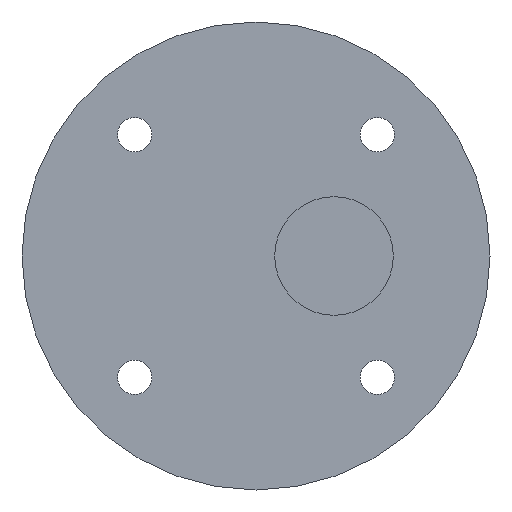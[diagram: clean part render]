
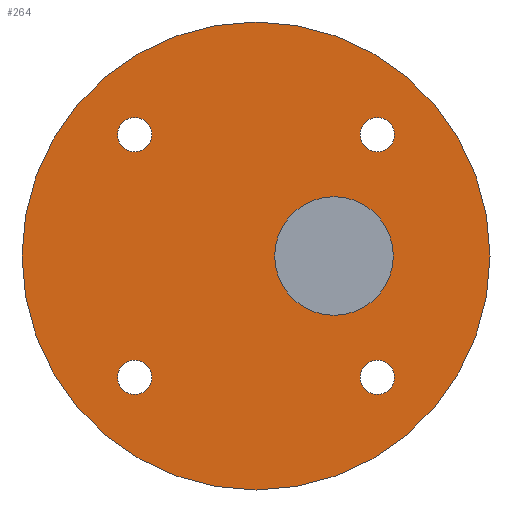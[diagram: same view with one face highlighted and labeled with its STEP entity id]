
A CAD part, left-side view. The second image highlights one B-rep face of the part: STEP entity #264.
In plain terms, the highlighted planar face has unit normal (-1, 0, 0).
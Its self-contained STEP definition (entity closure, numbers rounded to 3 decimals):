
#31 = CYLINDRICAL_SURFACE('',#32,150.);
#32 = AXIS2_PLACEMENT_3D('',#33,#34,#35);
#33 = CARTESIAN_POINT('',(978.,100.,1100.));
#34 = DIRECTION('',(1.,0.,0.));
#35 = DIRECTION('',(-0.,0.,1.));
#56 = VERTEX_POINT('',#57);
#57 = CARTESIAN_POINT('',(978.,100.,1250.));
#78 = EDGE_CURVE('',#56,#56,#79,.T.);
#79 = SURFACE_CURVE('',#80,(#85,#92),.PCURVE_S1.);
#80 = CIRCLE('',#81,150.);
#81 = AXIS2_PLACEMENT_3D('',#82,#83,#84);
#82 = CARTESIAN_POINT('',(978.,100.,1100.));
#83 = DIRECTION('',(1.,0.,0.));
#84 = DIRECTION('',(-0.,0.,1.));
#85 = PCURVE('',#31,#86);
#86 = DEFINITIONAL_REPRESENTATION('',(#87),#91);
#87 = LINE('',#88,#89);
#88 = CARTESIAN_POINT('',(0.,0.));
#89 = VECTOR('',#90,1.);
#90 = DIRECTION('',(1.,0.));
#91 = ( GEOMETRIC_REPRESENTATION_CONTEXT(2) 
PARAMETRIC_REPRESENTATION_CONTEXT() REPRESENTATION_CONTEXT('2D SPACE',''
  ) );
#92 = PCURVE('',#93,#98);
#93 = PLANE('',#94);
#94 = AXIS2_PLACEMENT_3D('',#95,#96,#97);
#95 = CARTESIAN_POINT('',(978.,100.,1100.));
#96 = DIRECTION('',(1.,0.,0.));
#97 = DIRECTION('',(-0.,0.,1.));
#98 = DEFINITIONAL_REPRESENTATION('',(#99),#103);
#99 = CIRCLE('',#100,150.);
#100 = AXIS2_PLACEMENT_2D('',#101,#102);
#101 = CARTESIAN_POINT('',(0.,0.));
#102 = DIRECTION('',(1.,0.));
#103 = ( GEOMETRIC_REPRESENTATION_CONTEXT(2) 
PARAMETRIC_REPRESENTATION_CONTEXT() REPRESENTATION_CONTEXT('2D SPACE',''
  ) );
#129 = CYLINDRICAL_SURFACE('',#130,11.);
#130 = AXIS2_PLACEMENT_3D('',#131,#132,#133);
#131 = CARTESIAN_POINT('',(936.,177.782,1022.218));
#132 = DIRECTION('',(1.,0.,0.));
#133 = DIRECTION('',(-0.,0.,1.));
#160 = CYLINDRICAL_SURFACE('',#161,11.);
#161 = AXIS2_PLACEMENT_3D('',#162,#163,#164);
#162 = CARTESIAN_POINT('',(936.,177.782,1177.782));
#163 = DIRECTION('',(1.,0.,0.));
#164 = DIRECTION('',(-0.,0.,1.));
#191 = CYLINDRICAL_SURFACE('',#192,11.);
#192 = AXIS2_PLACEMENT_3D('',#193,#194,#195);
#193 = CARTESIAN_POINT('',(936.,22.218,1022.218));
#194 = DIRECTION('',(1.,0.,0.));
#195 = DIRECTION('',(-0.,0.,1.));
#253 = CYLINDRICAL_SURFACE('',#254,11.);
#254 = AXIS2_PLACEMENT_3D('',#255,#256,#257);
#255 = CARTESIAN_POINT('',(936.,22.218,1177.782));
#256 = DIRECTION('',(1.,0.,0.));
#257 = DIRECTION('',(-0.,0.,1.));
#264 = ADVANCED_FACE('',(#265,#268,#294,#320,#346,#377),#93,.F.);
#265 = FACE_BOUND('',#266,.F.);
#266 = EDGE_LOOP('',(#267));
#267 = ORIENTED_EDGE('',*,*,#78,.T.);
#268 = FACE_BOUND('',#269,.F.);
#269 = EDGE_LOOP('',(#270));
#270 = ORIENTED_EDGE('',*,*,#271,.F.);
#271 = EDGE_CURVE('',#272,#272,#274,.T.);
#272 = VERTEX_POINT('',#273);
#273 = CARTESIAN_POINT('',(978.,177.782,1033.218));
#274 = SURFACE_CURVE('',#275,(#280,#287),.PCURVE_S1.);
#275 = CIRCLE('',#276,11.);
#276 = AXIS2_PLACEMENT_3D('',#277,#278,#279);
#277 = CARTESIAN_POINT('',(978.,177.782,1022.218));
#278 = DIRECTION('',(1.,0.,0.));
#279 = DIRECTION('',(-0.,0.,1.));
#280 = PCURVE('',#93,#281);
#281 = DEFINITIONAL_REPRESENTATION('',(#282),#286);
#282 = CIRCLE('',#283,11.);
#283 = AXIS2_PLACEMENT_2D('',#284,#285);
#284 = CARTESIAN_POINT('',(-77.782,-77.782));
#285 = DIRECTION('',(1.,0.));
#286 = ( GEOMETRIC_REPRESENTATION_CONTEXT(2) 
PARAMETRIC_REPRESENTATION_CONTEXT() REPRESENTATION_CONTEXT('2D SPACE',''
  ) );
#287 = PCURVE('',#129,#288);
#288 = DEFINITIONAL_REPRESENTATION('',(#289),#293);
#289 = LINE('',#290,#291);
#290 = CARTESIAN_POINT('',(0.,42.));
#291 = VECTOR('',#292,1.);
#292 = DIRECTION('',(1.,0.));
#293 = ( GEOMETRIC_REPRESENTATION_CONTEXT(2) 
PARAMETRIC_REPRESENTATION_CONTEXT() REPRESENTATION_CONTEXT('2D SPACE',''
  ) );
#294 = FACE_BOUND('',#295,.F.);
#295 = EDGE_LOOP('',(#296));
#296 = ORIENTED_EDGE('',*,*,#297,.F.);
#297 = EDGE_CURVE('',#298,#298,#300,.T.);
#298 = VERTEX_POINT('',#299);
#299 = CARTESIAN_POINT('',(978.,177.782,1188.782));
#300 = SURFACE_CURVE('',#301,(#306,#313),.PCURVE_S1.);
#301 = CIRCLE('',#302,11.);
#302 = AXIS2_PLACEMENT_3D('',#303,#304,#305);
#303 = CARTESIAN_POINT('',(978.,177.782,1177.782));
#304 = DIRECTION('',(1.,0.,0.));
#305 = DIRECTION('',(-0.,0.,1.));
#306 = PCURVE('',#93,#307);
#307 = DEFINITIONAL_REPRESENTATION('',(#308),#312);
#308 = CIRCLE('',#309,11.);
#309 = AXIS2_PLACEMENT_2D('',#310,#311);
#310 = CARTESIAN_POINT('',(77.782,-77.782));
#311 = DIRECTION('',(1.,0.));
#312 = ( GEOMETRIC_REPRESENTATION_CONTEXT(2) 
PARAMETRIC_REPRESENTATION_CONTEXT() REPRESENTATION_CONTEXT('2D SPACE',''
  ) );
#313 = PCURVE('',#160,#314);
#314 = DEFINITIONAL_REPRESENTATION('',(#315),#319);
#315 = LINE('',#316,#317);
#316 = CARTESIAN_POINT('',(0.,42.));
#317 = VECTOR('',#318,1.);
#318 = DIRECTION('',(1.,0.));
#319 = ( GEOMETRIC_REPRESENTATION_CONTEXT(2) 
PARAMETRIC_REPRESENTATION_CONTEXT() REPRESENTATION_CONTEXT('2D SPACE',''
  ) );
#320 = FACE_BOUND('',#321,.F.);
#321 = EDGE_LOOP('',(#322));
#322 = ORIENTED_EDGE('',*,*,#323,.F.);
#323 = EDGE_CURVE('',#324,#324,#326,.T.);
#324 = VERTEX_POINT('',#325);
#325 = CARTESIAN_POINT('',(978.,22.218,1033.218));
#326 = SURFACE_CURVE('',#327,(#332,#339),.PCURVE_S1.);
#327 = CIRCLE('',#328,11.);
#328 = AXIS2_PLACEMENT_3D('',#329,#330,#331);
#329 = CARTESIAN_POINT('',(978.,22.218,1022.218));
#330 = DIRECTION('',(1.,0.,0.));
#331 = DIRECTION('',(-0.,0.,1.));
#332 = PCURVE('',#93,#333);
#333 = DEFINITIONAL_REPRESENTATION('',(#334),#338);
#334 = CIRCLE('',#335,11.);
#335 = AXIS2_PLACEMENT_2D('',#336,#337);
#336 = CARTESIAN_POINT('',(-77.782,77.782));
#337 = DIRECTION('',(1.,0.));
#338 = ( GEOMETRIC_REPRESENTATION_CONTEXT(2) 
PARAMETRIC_REPRESENTATION_CONTEXT() REPRESENTATION_CONTEXT('2D SPACE',''
  ) );
#339 = PCURVE('',#191,#340);
#340 = DEFINITIONAL_REPRESENTATION('',(#341),#345);
#341 = LINE('',#342,#343);
#342 = CARTESIAN_POINT('',(0.,42.));
#343 = VECTOR('',#344,1.);
#344 = DIRECTION('',(1.,0.));
#345 = ( GEOMETRIC_REPRESENTATION_CONTEXT(2) 
PARAMETRIC_REPRESENTATION_CONTEXT() REPRESENTATION_CONTEXT('2D SPACE',''
  ) );
#346 = FACE_BOUND('',#347,.F.);
#347 = EDGE_LOOP('',(#348));
#348 = ORIENTED_EDGE('',*,*,#349,.F.);
#349 = EDGE_CURVE('',#350,#350,#352,.T.);
#350 = VERTEX_POINT('',#351);
#351 = CARTESIAN_POINT('',(978.,50.,1138.));
#352 = SURFACE_CURVE('',#353,(#358,#365),.PCURVE_S1.);
#353 = CIRCLE('',#354,38.);
#354 = AXIS2_PLACEMENT_3D('',#355,#356,#357);
#355 = CARTESIAN_POINT('',(978.,50.,1100.));
#356 = DIRECTION('',(1.,0.,0.));
#357 = DIRECTION('',(-0.,0.,1.));
#358 = PCURVE('',#93,#359);
#359 = DEFINITIONAL_REPRESENTATION('',(#360),#364);
#360 = CIRCLE('',#361,38.);
#361 = AXIS2_PLACEMENT_2D('',#362,#363);
#362 = CARTESIAN_POINT('',(0.,50.));
#363 = DIRECTION('',(1.,0.));
#364 = ( GEOMETRIC_REPRESENTATION_CONTEXT(2) 
PARAMETRIC_REPRESENTATION_CONTEXT() REPRESENTATION_CONTEXT('2D SPACE',''
  ) );
#365 = PCURVE('',#366,#371);
#366 = CYLINDRICAL_SURFACE('',#367,38.);
#367 = AXIS2_PLACEMENT_3D('',#368,#369,#370);
#368 = CARTESIAN_POINT('',(977.,50.,1100.));
#369 = DIRECTION('',(1.,0.,0.));
#370 = DIRECTION('',(-0.,0.,1.));
#371 = DEFINITIONAL_REPRESENTATION('',(#372),#376);
#372 = LINE('',#373,#374);
#373 = CARTESIAN_POINT('',(0.,1.));
#374 = VECTOR('',#375,1.);
#375 = DIRECTION('',(1.,0.));
#376 = ( GEOMETRIC_REPRESENTATION_CONTEXT(2) 
PARAMETRIC_REPRESENTATION_CONTEXT() REPRESENTATION_CONTEXT('2D SPACE',''
  ) );
#377 = FACE_BOUND('',#378,.F.);
#378 = EDGE_LOOP('',(#379));
#379 = ORIENTED_EDGE('',*,*,#380,.F.);
#380 = EDGE_CURVE('',#381,#381,#383,.T.);
#381 = VERTEX_POINT('',#382);
#382 = CARTESIAN_POINT('',(978.,22.218,1188.782));
#383 = SURFACE_CURVE('',#384,(#389,#396),.PCURVE_S1.);
#384 = CIRCLE('',#385,11.);
#385 = AXIS2_PLACEMENT_3D('',#386,#387,#388);
#386 = CARTESIAN_POINT('',(978.,22.218,1177.782));
#387 = DIRECTION('',(1.,0.,0.));
#388 = DIRECTION('',(-0.,0.,1.));
#389 = PCURVE('',#93,#390);
#390 = DEFINITIONAL_REPRESENTATION('',(#391),#395);
#391 = CIRCLE('',#392,11.);
#392 = AXIS2_PLACEMENT_2D('',#393,#394);
#393 = CARTESIAN_POINT('',(77.782,77.782));
#394 = DIRECTION('',(1.,0.));
#395 = ( GEOMETRIC_REPRESENTATION_CONTEXT(2) 
PARAMETRIC_REPRESENTATION_CONTEXT() REPRESENTATION_CONTEXT('2D SPACE',''
  ) );
#396 = PCURVE('',#253,#397);
#397 = DEFINITIONAL_REPRESENTATION('',(#398),#402);
#398 = LINE('',#399,#400);
#399 = CARTESIAN_POINT('',(0.,42.));
#400 = VECTOR('',#401,1.);
#401 = DIRECTION('',(1.,0.));
#402 = ( GEOMETRIC_REPRESENTATION_CONTEXT(2) 
PARAMETRIC_REPRESENTATION_CONTEXT() REPRESENTATION_CONTEXT('2D SPACE',''
  ) );
